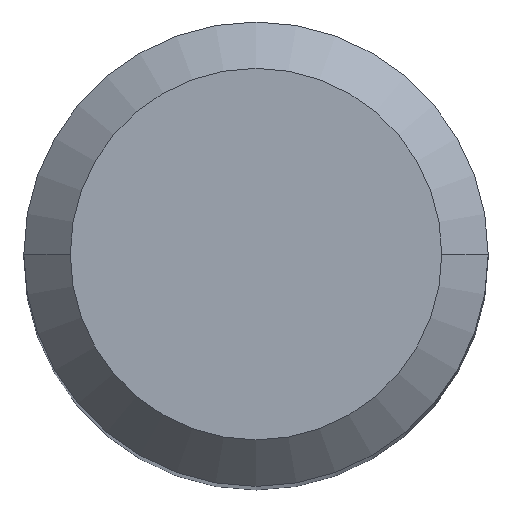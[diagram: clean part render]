
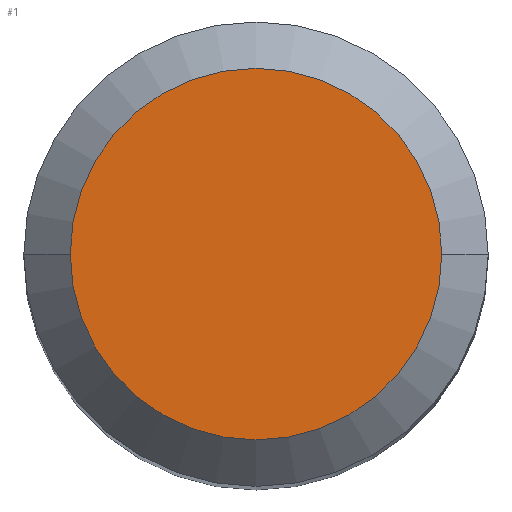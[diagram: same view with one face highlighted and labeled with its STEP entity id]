
A CAD part, top view. The second image highlights one B-rep face of the part: STEP entity #1.
In plain terms, the highlighted planar face has unit normal (0, 0, 1).
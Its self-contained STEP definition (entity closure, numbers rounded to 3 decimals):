
#1 = ADVANCED_FACE ( 'NONE', ( #167 ), #356, .T. ) ;
#5 = CARTESIAN_POINT ( 'NONE',  ( 0., 3.2, 0. ) ) ;
#30 = DIRECTION ( 'NONE',  ( 0., 0., -1. ) ) ;
#110 = VERTEX_POINT ( 'NONE', #252 ) ;
#111 = EDGE_CURVE ( 'NONE', #267, #110, #333, .T. ) ;
#129 = CARTESIAN_POINT ( 'NONE',  ( 0., 0., 0. ) ) ;
#155 = DIRECTION ( 'NONE',  ( 0., 0., 1. ) ) ;
#158 = AXIS2_PLACEMENT_3D ( 'NONE', #5, #155, #159 ) ;
#159 = DIRECTION ( 'NONE',  ( 1., 0., 0. ) ) ;
#167 = FACE_OUTER_BOUND ( 'NONE', #387, .T. ) ;
#183 = DIRECTION ( 'NONE',  ( -1., 0., 0. ) ) ;
#184 = AXIS2_PLACEMENT_3D ( 'NONE', #450, #421, #183 ) ;
#249 = CIRCLE ( 'NONE', #184, 3.2 ) ;
#252 = CARTESIAN_POINT ( 'NONE',  ( -3.2, 0., 0. ) ) ;
#267 = VERTEX_POINT ( 'NONE', #383 ) ;
#305 = AXIS2_PLACEMENT_3D ( 'NONE', #129, #30, #441 ) ;
#333 = CIRCLE ( 'NONE', #305, 3.2 ) ;
#356 = PLANE ( 'NONE',  #158 ) ;
#383 = CARTESIAN_POINT ( 'NONE',  ( 3.2, 0., 0. ) ) ;
#387 = EDGE_LOOP ( 'NONE', ( #432, #449 ) ) ;
#421 = DIRECTION ( 'NONE',  ( 0., 0., -1. ) ) ;
#432 = ORIENTED_EDGE ( 'NONE', *, *, #444, .F. ) ;
#441 = DIRECTION ( 'NONE',  ( -1., 0., 0. ) ) ;
#444 = EDGE_CURVE ( 'NONE', #110, #267, #249, .T. ) ;
#449 = ORIENTED_EDGE ( 'NONE', *, *, #111, .F. ) ;
#450 = CARTESIAN_POINT ( 'NONE',  ( 0., 0., 0. ) ) ;
